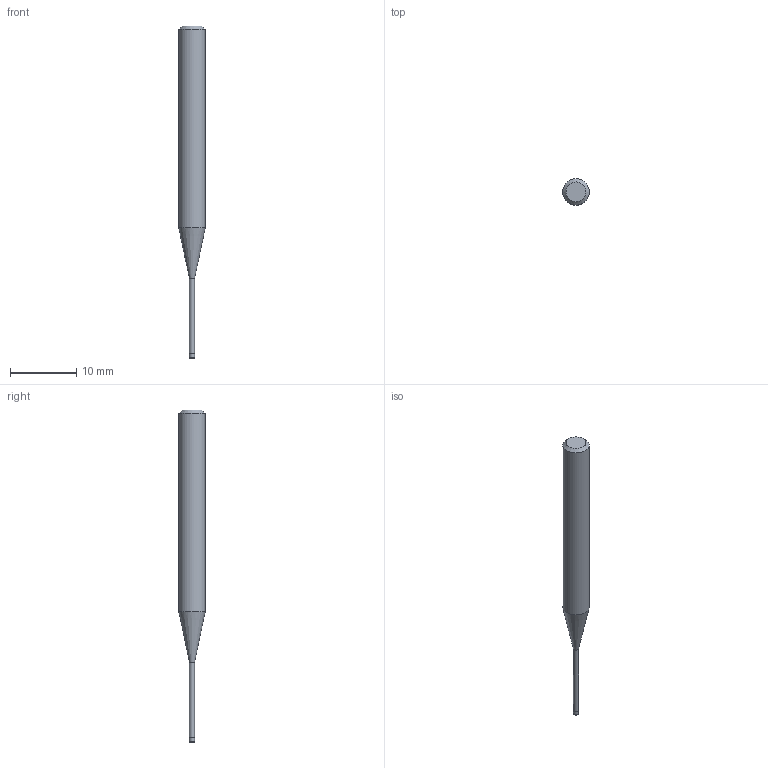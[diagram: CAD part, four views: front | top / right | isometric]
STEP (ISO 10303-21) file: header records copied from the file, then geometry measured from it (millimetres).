
FILE_DESCRIPTION((''),'2;1');
FILE_NAME('C:\Users\nsx150\AppData\Local\Temp\Mastercam 2021\3SYKECWX22\TEMP.step','2021-04-22T09:38:13',(''),(''),'STEP Write','Mastercam 2021 ... CNC Software, Inc.','');
FILE_SCHEMA(('AUTOMOTIVE_DESIGN'));
Length unit declared in the file: millimetre
Products named in the file (1): None
Bounding box: 4 x 4 x 50 mm (x, y, z)
Volume: 424.9 mm3; surface area: 478.7 mm2
Topology: 2 solids, 2 shells, 10 faces, 14 edges, 8 vertices
Faces by surface type: plane 4, cylinder 3, cone 2, torus 1
Full cylindrical faces by diameter (mm): 0.76 x1, 0.8 x1, 4 x1
Entity records: 232 total; most frequent: DIRECTION 40, CARTESIAN_POINT 28, AXIS2_PLACEMENT_3D 20, ORIENTED_EDGE 16, EDGE_LOOP 16, STYLED_ITEM 13, ADVANCED_FACE 10, FACE_BOUND 10
